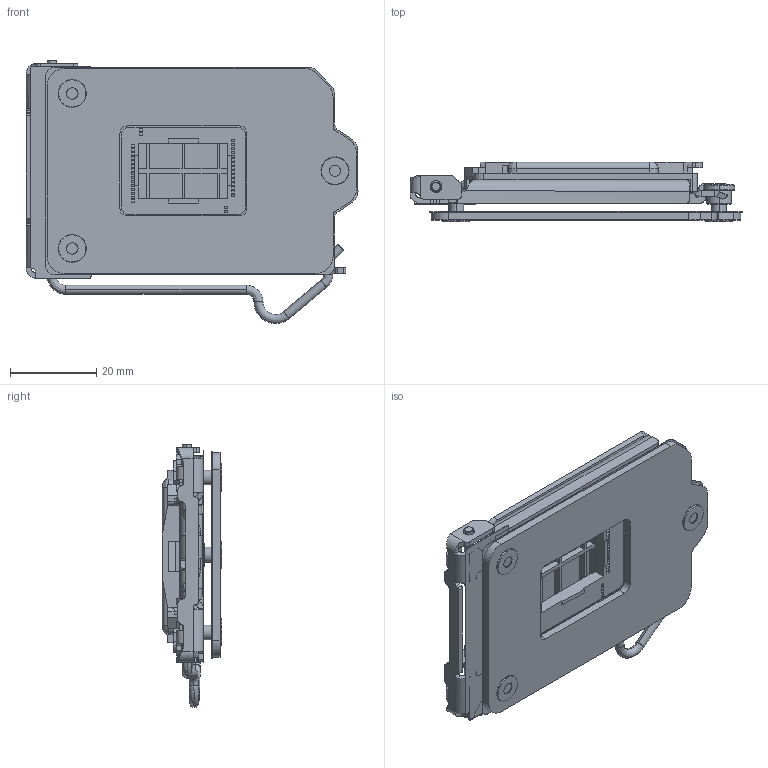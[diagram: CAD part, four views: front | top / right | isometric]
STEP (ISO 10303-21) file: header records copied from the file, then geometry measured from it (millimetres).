
FILE_DESCRIPTION (( 'STEP AP214' ), '1' );
FILE_NAME ('3D drawing_PT44A68-6401.STEP', '2016-02-13T06:43:24', ( '' ), ( '' ), 'SwSTEP 2.0', 'SolidWorks 2016', '' );
FILE_SCHEMA (( 'AUTOMOTIVE_DESIGN' ));
Length unit declared in the file: millimetre
Products named in the file (10): COVER; PRT0008; SRV_TORX_SCREW; SRV_SHOULDER_SCREW; PRT0007; FRAME_-_080304_-_HVM; FRAME_INSULATOR_-_080304_-_HVM; PT44P18-6401; 3D drawing_PT44A68-6401; 1155HOUSING
Assembly tree (10 placements, depth 2):
  3D drawing_PT44A68-6401
    FRAME_-_080304_-_HVM
    FRAME_INSULATOR_-_080304_-_HVM
    PRT0007
    PRT0008
    PT44P18-6401
    SRV_SHOULDER_SCREW
    SRV_TORX_SCREW  x2
    COVER
    1155HOUSING
Bounding box: 77.11 x 13.81 x 61.11 mm (x, y, z)
Volume: 19418.4 mm3; surface area: 35085.5 mm2
Topology: 20 solids, 20 shells, 2379 faces, 6602 edges, 4322 vertices
Faces by surface type: plane 1761, cylinder 514, bspline 87, cone 17
Entity records: 85371 total; most frequent: CARTESIAN_POINT 18849, ORIENTED_EDGE 13012, DIRECTION 11111, EDGE_CURVE 6506, LINE 5091, VECTOR 5091, VERTEX_POINT 4265, AXIS2_PLACEMENT_3D 3010
